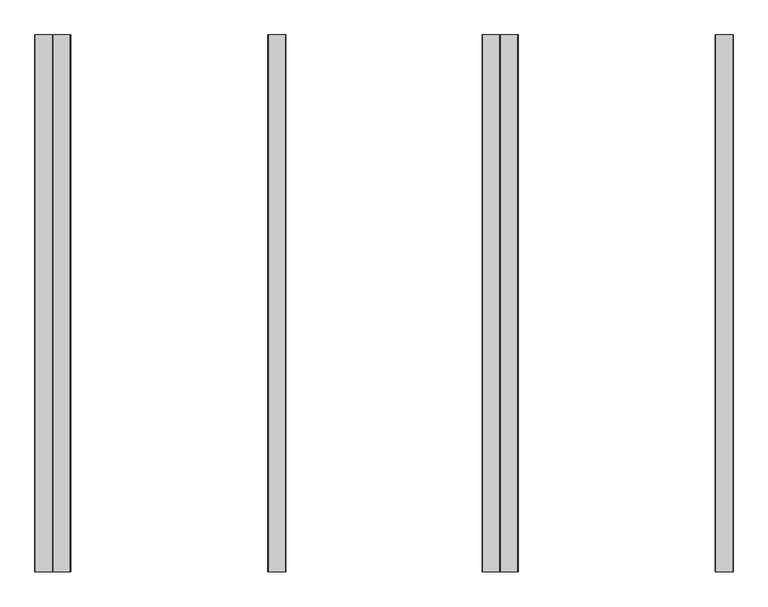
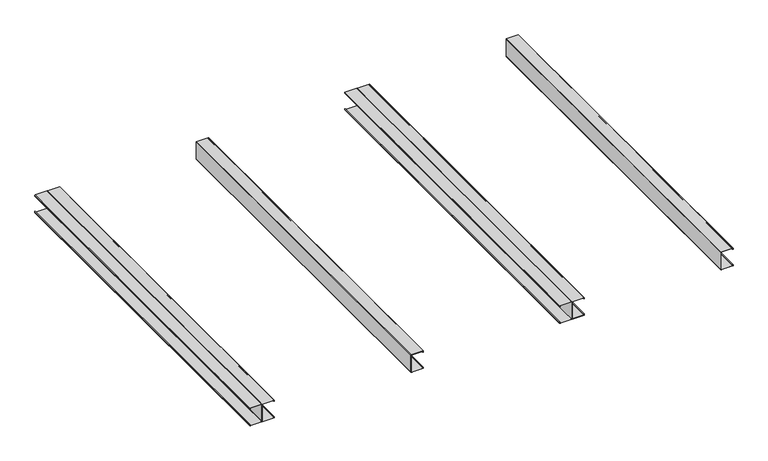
"""IFC4 building model written with IfcOpenShell, lengths in millimetres: proxy geometry, C- 2xCprofile-75 : C- 2xCprofile-75."""

import ifcopenshell
import ifcopenshell.guid

model = None  # the IFC model being written
_history = None  # IfcOwnerHistory: only IFC2X3 demands one
_inside = {}  # id of a spatial element -> (the spatial element, [elements in it])
_under = {}  # id of a project, library or spatial element -> (it, [spatial elements below it])
_declared = {}  # id of a project -> (the project, [libraries it declares])
_typed = {}  # id of a type object -> (the type object, [elements of that type])
_made_of = {}  # id of a material, layer set ... -> (it, [elements and type objects made of it])


def new_model(schema):
    """Start an empty IFC model of exactly this schema.

    Asked for "IFC4X3", IfcOpenShell would pick the latest addendum, in which some entities
    have other attributes; the version numbers below select the first issue.
    IFC2X3 requires an IfcOwnerHistory on every rooted entity: one is made here for all.
    """
    global model, _history
    if schema == "IFC4X3":
        model = ifcopenshell.file(schema_version=(4, 3, 0, 0))
    else:
        model = ifcopenshell.file(schema=schema)
    _inside.clear()
    _under.clear()
    _declared.clear()
    _typed.clear()
    _made_of.clear()
    _history = None
    if model.schema == "IFC2X3":
        org = make("IfcOrganization", Name="unknown")
        user = make(
            "IfcPersonAndOrganization",
            ThePerson=make("IfcPerson", FamilyName="unknown"),
            TheOrganization=org,
        )
        app = make(
            "IfcApplication",
            ApplicationDeveloper=org,
            Version="unknown",
            ApplicationFullName="unknown",
            ApplicationIdentifier="unknown",
        )
        _history = make(
            "IfcOwnerHistory",
            OwningUser=user,
            OwningApplication=app,
            ChangeAction="ADDED",
            CreationDate=0,
        )
    return model


def make(cls, **values):
    """One entity of the class cls with the attributes given. An attribute that is None is left unset."""
    return model.create_entity(
        cls, **{name: value for name, value in values.items() if value is not None}
    )


def rooted(cls, **values):
    """An entity with a GlobalId (a new one), such as an element, a storey or a relation."""
    return make(cls, GlobalId=ifcopenshell.guid.new(), OwnerHistory=_history, **values)


def si_unit(unit_type, name, prefix=None):
    """IfcSIUnit, for example si_unit("LENGTHUNIT", "METRE", prefix="MILLI")."""
    return make("IfcSIUnit", UnitType=unit_type, Prefix=prefix, Name=name)


def assignment(units):
    """IfcUnitAssignment: the units of a project."""
    return None if units is None else make("IfcUnitAssignment", Units=units)


def point(xyz):
    """IfcCartesianPoint."""
    return None if xyz is None else make("IfcCartesianPoint", Coordinates=xyz)


def direction(xyz):
    """IfcDirection."""
    return None if xyz is None else make("IfcDirection", DirectionRatios=xyz)


def frame(location, z_axis=None, x_axis=None):
    """IfcAxis2Placement3D, a coordinate frame: its origin and axes. An axis left out is left unset."""
    return make(
        "IfcAxis2Placement3D",
        Location=point(location),
        Axis=direction(z_axis),
        RefDirection=direction(x_axis),
    )


def frame_2d(location, x_axis=None):
    """IfcAxis2Placement2D, a coordinate frame in the plane: its origin and x axis."""
    return make(
        "IfcAxis2Placement2D", Location=point(location), RefDirection=direction(x_axis)
    )


def origin():
    """The frame at (0, 0, 0) with its axes left unset."""
    return frame((0.0, 0.0, 0.0))


def place(relative_to, where):
    """IfcLocalPlacement: puts the frame where relative to a parent placement (None: the world)."""
    return make(
        "IfcLocalPlacement", PlacementRelTo=relative_to, RelativePlacement=where
    )


def context(
    kind, dimensions, precision=None, world=None, true_north=None, identifier=None
):
    """IfcGeometricRepresentationContext, for example the 3D "Model" context."""
    return make(
        "IfcGeometricRepresentationContext",
        ContextIdentifier=identifier,
        ContextType=kind,
        CoordinateSpaceDimension=dimensions,
        Precision=precision,
        WorldCoordinateSystem=world,
        TrueNorth=true_north,
    )


def project(units=None, contexts=None):
    """IfcProject with its units and contexts."""
    return rooted(
        "IfcProject",
        Name="project",
        RepresentationContexts=contexts,
        UnitsInContext=assignment(units),
    )


def spatial(cls, under=None, at=None, **own):
    """A site, building, storey or space (cls), placed at a placement, below another one or the project."""
    s = rooted(cls, ObjectPlacement=at, **own)
    if under is not None:
        _under.setdefault(under.id(), (under, []))[1].append(s)
    return s


def polyline(points):
    """IfcPolyline through the points."""
    return make("IfcPolyline", Points=[point(p) for p in points])


def circle_curve(where, radius):
    """IfcCircle in the frame where."""
    return make("IfcCircle", Position=where, Radius=radius)


def trimmed(basis, trim1, trim2, sense, master):
    """IfcTrimmedCurve: the piece of a basis curve between two trims."""
    return make(
        "IfcTrimmedCurve",
        BasisCurve=basis,
        Trim1=trim1,
        Trim2=trim2,
        SenseAgreement=sense,
        MasterRepresentation=master,
    )


def segment(curve, same_sense, transition):
    """IfcCompositeCurveSegment."""
    return make(
        "IfcCompositeCurveSegment",
        Transition=transition,
        SameSense=same_sense,
        ParentCurve=curve,
    )


def composite_curve(segments, self_intersect=None):
    """IfcCompositeCurve: segments joined end to end."""
    return make("IfcCompositeCurve", Segments=segments, SelfIntersect=self_intersect)


def outline(outer, holes=None, kind="AREA"):
    """IfcArbitraryClosedProfileDef: a profile drawn as a closed curve; with holes, ...WithVoids."""
    if holes is None:
        return make("IfcArbitraryClosedProfileDef", ProfileType=kind, OuterCurve=outer)
    return make(
        "IfcArbitraryProfileDefWithVoids",
        ProfileType=kind,
        OuterCurve=outer,
        InnerCurves=holes,
    )


def extrude(swept, where, along, depth):
    """IfcExtrudedAreaSolid: the profile swept, set in the frame where, extruded along a direction by depth."""
    return make(
        "IfcExtrudedAreaSolid",
        SweptArea=swept,
        Position=where,
        ExtrudedDirection=direction(along),
        Depth=depth,
    )


def shape(context_of_items, identifier, shape_type, items):
    """IfcShapeRepresentation: the items that make up one representation, for example the "Body"."""
    return make(
        "IfcShapeRepresentation",
        ContextOfItems=context_of_items,
        RepresentationIdentifier=identifier,
        RepresentationType=shape_type,
        Items=items,
    )


def source(mapping_origin, context_of_items, identifier, shape_type, items):
    """IfcRepresentationMap: a shape defined once, which mapped items show again and again."""
    return make(
        "IfcRepresentationMap",
        MappingOrigin=mapping_origin,
        MappedRepresentation=shape(context_of_items, identifier, shape_type, items),
    )


def transform(
    local_origin,
    x_axis=None,
    y_axis=None,
    z_axis=None,
    scale=None,
    scale2=None,
    scale3=None,
    uniform=True,
):
    """IfcCartesianTransformationOperator3D, or its non-uniform kind. x_axis, y_axis, z_axis: its Axis1, 2, 3."""
    if uniform:
        return make(
            "IfcCartesianTransformationOperator3D",
            Axis1=direction(x_axis),
            Axis2=direction(y_axis),
            LocalOrigin=point(local_origin),
            Scale=scale,
            Axis3=direction(z_axis),
        )
    return make(
        "IfcCartesianTransformationOperator3DnonUniform",
        Axis1=direction(x_axis),
        Axis2=direction(y_axis),
        LocalOrigin=point(local_origin),
        Scale=scale,
        Axis3=direction(z_axis),
        Scale2=scale2,
        Scale3=scale3,
    )


def mapped(mapping_source, mapping_target):
    """IfcMappedItem: shows the shape of a source again, moved by a transform."""
    return make(
        "IfcMappedItem", MappingSource=mapping_source, MappingTarget=mapping_target
    )


def made_of(thing, what):
    """Note that an element or type object is made of a material, layer set ...; save() writes the relation."""
    if what is not None:
        _made_of.setdefault(what.id(), (what, []))[1].append(thing)
    return thing


def element(
    cls,
    number,
    at=None,
    inside=None,
    cuts=None,
    type_object=None,
    material=None,
    context=None,
    identifier="Body",
    shape_type=None,
    held_by="IfcProductDefinitionShape",
    body=None,
    shapes=None,
    **own,
):
    """One element of the class cls, such as IfcWall. Its Tag is "e" and its number.

    at: its placement. inside: the storey or other place that contains it. cuts: it is an
    opening in that element (IfcRelVoidsElement). A single representation is given by context,
    identifier, shape_type and body (its items); several are given by shapes. held_by: the class
    of the entity that holds the representations. save() writes the other relations.
    """
    e = rooted(cls, Tag="e%d" % number, ObjectPlacement=at, **own)
    if body is not None:
        shapes = [shape(context, identifier, shape_type, body)]
    if shapes is not None:
        e.Representation = make(held_by, Representations=shapes)
    if inside is not None:
        _inside.setdefault(inside.id(), (inside, []))[1].append(e)
    if cuts is not None:
        rooted(
            "IfcRelVoidsElement", RelatingBuildingElement=cuts, RelatedOpeningElement=e
        )
    if type_object is not None:
        _typed.setdefault(type_object.id(), (type_object, []))[1].append(e)
    return made_of(e, material)


def aggregate(whole, parts):
    """IfcRelAggregates: a whole, such as a stair, and the parts it consists of."""
    return rooted("IfcRelAggregates", RelatingObject=whole, RelatedObjects=parts)


def save(model, path):
    """Write the relations noted so far, then the file.

    IfcRelAggregates (storeys below a building ...), IfcRelContainedInSpatialStructure (elements
    in a storey), IfcRelDefinesByType, IfcRelAssociatesMaterial and IfcRelDeclares: one each for
    every whole, place, type object, material and project.
    """
    for whole, parts in _under.values():
        aggregate(whole, parts)
    for where, things in _inside.values():
        rooted(
            "IfcRelContainedInSpatialStructure",
            RelatedElements=things,
            RelatingStructure=where,
        )
    for kind, things in _typed.values():
        rooted("IfcRelDefinesByType", RelatedObjects=things, RelatingType=kind)
    for what, things in _made_of.values():
        rooted("IfcRelAssociatesMaterial", RelatedObjects=things, RelatingMaterial=what)
    for by, libraries in _declared.values():
        rooted("IfcRelDeclares", RelatingContext=by, RelatedDefinitions=libraries)
    model.write(path)


def generic_models_d371b926(model_context):
    return source(origin(), model_context, "Body", "SweptSolid", [
        extrude(outline(composite_curve([segment(polyline([(36.7, 1826.3409373), (36.7, 1874.7409373), (33.3621458, 1874.7409373), (33.3621458, 1873.9142072), (35.0, 1873.9142072), (35.0, 1873.1142072), (33.5995706, 1873.1142072)]), True, "CONTINUOUS"), segment(trimmed(circle_curve(frame_2d((33.5995706, 1874.3275723)), 1.213365), [point((33.5995706, 1873.1142072))], [point((33.5995706, 1875.5409373))], False, "CARTESIAN"), True, "CONTINUOUS"), segment(polyline([(33.5995706, 1875.5409373), (36.8270817, 1875.5409373)]), True, "CONTINUOUS"), segment(trimmed(circle_curve(frame_2d((36.8270817, 1874.868019)), 0.6729183), [point((36.8270817, 1875.5409373))], [point((37.5, 1874.868019))], False, "CARTESIAN"), True, "CONTINUOUS"), segment(polyline([(37.5, 1874.868019), (37.5, 1826.3409373)]), True, "CONTINUOUS"), segment(trimmed(circle_curve(frame_2d((36.7, 1826.3409373)), 0.8), [point((37.5, 1826.3409373))], [point((36.7, 1825.5409373))], False, "CARTESIAN"), True, "CONTINUOUS"), segment(polyline([(36.7, 1825.5409373), (-36.7, 1825.5409373)]), True, "CONTINUOUS"), segment(trimmed(circle_curve(frame_2d((-36.7, 1826.3409373)), 0.8), [point((-36.7, 1825.5409373))], [point((-37.5, 1826.3409373))], False, "CARTESIAN"), True, "CONTINUOUS"), segment(polyline([(-37.5, 1826.3409373), (-37.5, 1874.868019)]), True, "CONTINUOUS"), segment(trimmed(circle_curve(frame_2d((-36.8270817, 1874.868019)), 0.6729183), [point((-37.5, 1874.868019))], [point((-36.8270817, 1875.5409373))], False, "CARTESIAN"), True, "CONTINUOUS"), segment(polyline([(-36.8270817, 1875.5409373), (-33.5995706, 1875.5409373)]), True, "CONTINUOUS"), segment(trimmed(circle_curve(frame_2d((-33.5995706, 1874.3275723)), 1.213365), [point((-33.5995706, 1875.5409373))], [point((-33.5995706, 1873.1142072))], False, "CARTESIAN"), True, "CONTINUOUS"), segment(polyline([(-33.5995706, 1873.1142072), (-35.0, 1873.1142072), (-35.0, 1873.9142072), (-33.3621458, 1873.9142072), (-33.3621458, 1874.7409373), (-36.7, 1874.7409373), (-36.7, 1826.3409373), (36.7, 1826.3409373)]), True, "CONTINUOUS")], self_intersect=False)), frame((0.0, 0.0, 0.0), z_axis=(0.0, 1.0, 0.0), x_axis=(0.0, 0.0, 1.0)), (0.0, 0.0, 1.0), 1500.0),
        extrude(outline(composite_curve([segment(polyline([(36.7, 576.3409373), (36.7, 624.7409373), (33.3621458, 624.7409373), (33.3621458, 623.9142072), (35.0, 623.9142072), (35.0, 623.1142072), (33.5995706, 623.1142072)]), True, "CONTINUOUS"), segment(trimmed(circle_curve(frame_2d((33.5995706, 624.3275723)), 1.213365), [point((33.5995706, 623.1142072))], [point((33.5995706, 625.5409373))], False, "CARTESIAN"), True, "CONTINUOUS"), segment(polyline([(33.5995706, 625.5409373), (36.8270817, 625.5409373)]), True, "CONTINUOUS"), segment(trimmed(circle_curve(frame_2d((36.8270817, 624.868019)), 0.6729183), [point((36.8270817, 625.5409373))], [point((37.5, 624.868019))], False, "CARTESIAN"), True, "CONTINUOUS"), segment(polyline([(37.5, 624.868019), (37.5, 576.3409373)]), True, "CONTINUOUS"), segment(trimmed(circle_curve(frame_2d((36.7, 576.3409373)), 0.8), [point((37.5, 576.3409373))], [point((36.7, 575.5409373))], False, "CARTESIAN"), True, "CONTINUOUS"), segment(polyline([(36.7, 575.5409373), (-36.7, 575.5409373)]), True, "CONTINUOUS"), segment(trimmed(circle_curve(frame_2d((-36.7, 576.3409373)), 0.8), [point((-36.7, 575.5409373))], [point((-37.5, 576.3409373))], False, "CARTESIAN"), True, "CONTINUOUS"), segment(polyline([(-37.5, 576.3409373), (-37.5, 624.868019)]), True, "CONTINUOUS"), segment(trimmed(circle_curve(frame_2d((-36.8270817, 624.868019)), 0.6729183), [point((-37.5, 624.868019))], [point((-36.8270817, 625.5409373))], False, "CARTESIAN"), True, "CONTINUOUS"), segment(polyline([(-36.8270817, 625.5409373), (-33.5995706, 625.5409373)]), True, "CONTINUOUS"), segment(trimmed(circle_curve(frame_2d((-33.5995706, 624.3275723)), 1.213365), [point((-33.5995706, 625.5409373))], [point((-33.5995706, 623.1142072))], False, "CARTESIAN"), True, "CONTINUOUS"), segment(polyline([(-33.5995706, 623.1142072), (-35.0, 623.1142072), (-35.0, 623.9142072), (-33.3621458, 623.9142072), (-33.3621458, 624.7409373), (-36.7, 624.7409373), (-36.7, 576.3409373), (36.7, 576.3409373)]), True, "CONTINUOUS")], self_intersect=False)), frame((0.0, 0.0, 0.0), z_axis=(0.0, 1.0, 0.0), x_axis=(0.0, 0.0, 1.0)), (0.0, 0.0, 1.0), 1500.0),
        extrude(outline(composite_curve([segment(polyline([(36.7, 1224.2), (-36.7, 1224.2), (-36.7, 1175.8), (-33.3621458, 1175.8), (-33.3621458, 1176.62673), (-35.0, 1176.62673), (-35.0, 1177.42673), (-33.5995706, 1177.42673)]), True, "CONTINUOUS"), segment(trimmed(circle_curve(frame_2d((-33.5995706, 1176.213365)), 1.213365), [point((-33.5995706, 1177.42673))], [point((-33.5995706, 1175.0))], False, "CARTESIAN"), True, "CONTINUOUS"), segment(polyline([(-33.5995706, 1175.0), (-36.8270817, 1175.0)]), True, "CONTINUOUS"), segment(trimmed(circle_curve(frame_2d((-36.8270817, 1175.6729183)), 0.6729183), [point((-36.8270817, 1175.0))], [point((-37.5, 1175.6729183))], False, "CARTESIAN"), True, "CONTINUOUS"), segment(polyline([(-37.5, 1175.6729183), (-37.5, 1224.2)]), True, "CONTINUOUS"), segment(trimmed(circle_curve(frame_2d((-36.7, 1224.2)), 0.8), [point((-37.5, 1224.2))], [point((-36.7, 1225.0))], False, "CARTESIAN"), True, "CONTINUOUS"), segment(trimmed(circle_curve(frame_2d((-36.7, 1225.8)), 0.8), [point((-36.7, 1225.0))], [point((-37.5, 1225.8))], False, "CARTESIAN"), True, "CONTINUOUS"), segment(polyline([(-37.5, 1225.8), (-37.5, 1274.3270817)]), True, "CONTINUOUS"), segment(trimmed(circle_curve(frame_2d((-36.8270817, 1274.3270817)), 0.6729183), [point((-37.5, 1274.3270817))], [point((-36.8270817, 1275.0))], False, "CARTESIAN"), True, "CONTINUOUS"), segment(polyline([(-36.8270817, 1275.0), (-33.5995706, 1275.0)]), True, "CONTINUOUS"), segment(trimmed(circle_curve(frame_2d((-33.5995706, 1273.786635)), 1.213365), [point((-33.5995706, 1275.0))], [point((-33.5995706, 1272.57327))], False, "CARTESIAN"), True, "CONTINUOUS"), segment(polyline([(-33.5995706, 1272.57327), (-35.0, 1272.57327), (-35.0, 1273.37327), (-33.3621458, 1273.37327), (-33.3621458, 1274.2), (-36.7, 1274.2), (-36.7, 1225.8), (36.7, 1225.8), (36.7, 1274.2), (33.3621458, 1274.2), (33.3621458, 1273.37327), (35.0, 1273.37327), (35.0, 1272.57327), (33.5995706, 1272.57327)]), True, "CONTINUOUS"), segment(trimmed(circle_curve(frame_2d((33.5995706, 1273.786635)), 1.213365), [point((33.5995706, 1272.57327))], [point((33.5995706, 1275.0))], False, "CARTESIAN"), True, "CONTINUOUS"), segment(polyline([(33.5995706, 1275.0), (36.8270817, 1275.0)]), True, "CONTINUOUS"), segment(trimmed(circle_curve(frame_2d((36.8270817, 1274.3270817)), 0.6729183), [point((36.8270817, 1275.0))], [point((37.5, 1274.3270817))], False, "CARTESIAN"), True, "CONTINUOUS"), segment(polyline([(37.5, 1274.3270817), (37.5, 1225.8)]), True, "CONTINUOUS"), segment(trimmed(circle_curve(frame_2d((36.7, 1225.8)), 0.8), [point((37.5, 1225.8))], [point((36.7, 1225.0))], False, "CARTESIAN"), True, "CONTINUOUS"), segment(trimmed(circle_curve(frame_2d((36.7, 1224.2)), 0.8), [point((36.7, 1225.0))], [point((37.5, 1224.2))], False, "CARTESIAN"), True, "CONTINUOUS"), segment(polyline([(37.5, 1224.2), (37.5, 1175.6729183)]), True, "CONTINUOUS"), segment(trimmed(circle_curve(frame_2d((36.8270817, 1175.6729183)), 0.6729183), [point((37.5, 1175.6729183))], [point((36.8270817, 1175.0))], False, "CARTESIAN"), True, "CONTINUOUS"), segment(polyline([(36.8270817, 1175.0), (33.5995706, 1175.0)]), True, "CONTINUOUS"), segment(trimmed(circle_curve(frame_2d((33.5995706, 1176.213365)), 1.213365), [point((33.5995706, 1175.0))], [point((33.5995706, 1177.42673))], False, "CARTESIAN"), True, "CONTINUOUS"), segment(polyline([(33.5995706, 1177.42673), (35.0, 1177.42673), (35.0, 1176.62673), (33.3621458, 1176.62673), (33.3621458, 1175.8), (36.7, 1175.8), (36.7, 1224.2)]), True, "CONTINUOUS")], self_intersect=False)), frame((0.0, 0.0, 0.0), z_axis=(0.0, 1.0, 0.0), x_axis=(0.0, 0.0, 1.0)), (0.0, 0.0, 1.0), 1500.0),
        extrude(outline(composite_curve([segment(polyline([(36.7, -25.8), (-36.7, -25.8), (-36.7, -74.2), (-33.3621458, -74.2), (-33.3621458, -73.37327), (-35.0, -73.37327), (-35.0, -72.57327), (-33.5995706, -72.57327)]), True, "CONTINUOUS"), segment(trimmed(circle_curve(frame_2d((-33.5995706, -73.786635)), 1.213365), [point((-33.5995706, -72.57327))], [point((-33.5995706, -75.0))], False, "CARTESIAN"), True, "CONTINUOUS"), segment(polyline([(-33.5995706, -75.0), (-36.8270817, -75.0)]), True, "CONTINUOUS"), segment(trimmed(circle_curve(frame_2d((-36.8270817, -74.3270817)), 0.6729183), [point((-36.8270817, -75.0))], [point((-37.5, -74.3270817))], False, "CARTESIAN"), True, "CONTINUOUS"), segment(polyline([(-37.5, -74.3270817), (-37.5, -25.8)]), True, "CONTINUOUS"), segment(trimmed(circle_curve(frame_2d((-36.7, -25.8)), 0.8), [point((-37.5, -25.8))], [point((-36.7, -25.0))], False, "CARTESIAN"), True, "CONTINUOUS"), segment(trimmed(circle_curve(frame_2d((-36.7, -24.2)), 0.8), [point((-36.7, -25.0))], [point((-37.5, -24.2))], False, "CARTESIAN"), True, "CONTINUOUS"), segment(polyline([(-37.5, -24.2), (-37.5, 24.3270817)]), True, "CONTINUOUS"), segment(trimmed(circle_curve(frame_2d((-36.8270817, 24.3270817)), 0.6729183), [point((-37.5, 24.3270817))], [point((-36.8270817, 25.0))], False, "CARTESIAN"), True, "CONTINUOUS"), segment(polyline([(-36.8270817, 25.0), (-33.5995706, 25.0)]), True, "CONTINUOUS"), segment(trimmed(circle_curve(frame_2d((-33.5995706, 23.786635)), 1.213365), [point((-33.5995706, 25.0))], [point((-33.5995706, 22.57327))], False, "CARTESIAN"), True, "CONTINUOUS"), segment(polyline([(-33.5995706, 22.57327), (-35.0, 22.57327), (-35.0, 23.37327), (-33.3621458, 23.37327), (-33.3621458, 24.2), (-36.7, 24.2), (-36.7, -24.2), (36.7, -24.2), (36.7, 24.2), (33.3621458, 24.2), (33.3621458, 23.37327), (35.0, 23.37327), (35.0, 22.57327), (33.5995706, 22.57327)]), True, "CONTINUOUS"), segment(trimmed(circle_curve(frame_2d((33.5995706, 23.786635)), 1.213365), [point((33.5995706, 22.57327))], [point((33.5995706, 25.0))], False, "CARTESIAN"), True, "CONTINUOUS"), segment(polyline([(33.5995706, 25.0), (36.8270817, 25.0)]), True, "CONTINUOUS"), segment(trimmed(circle_curve(frame_2d((36.8270817, 24.3270817)), 0.6729183), [point((36.8270817, 25.0))], [point((37.5, 24.3270817))], False, "CARTESIAN"), True, "CONTINUOUS"), segment(polyline([(37.5, 24.3270817), (37.5, -24.2)]), True, "CONTINUOUS"), segment(trimmed(circle_curve(frame_2d((36.7, -24.2)), 0.8), [point((37.5, -24.2))], [point((36.7, -25.0))], False, "CARTESIAN"), True, "CONTINUOUS"), segment(trimmed(circle_curve(frame_2d((36.7, -25.8)), 0.8), [point((36.7, -25.0))], [point((37.5, -25.8))], False, "CARTESIAN"), True, "CONTINUOUS"), segment(polyline([(37.5, -25.8), (37.5, -74.3270817)]), True, "CONTINUOUS"), segment(trimmed(circle_curve(frame_2d((36.8270817, -74.3270817)), 0.6729183), [point((37.5, -74.3270817))], [point((36.8270817, -75.0))], False, "CARTESIAN"), True, "CONTINUOUS"), segment(polyline([(36.8270817, -75.0), (33.5995706, -75.0)]), True, "CONTINUOUS"), segment(trimmed(circle_curve(frame_2d((33.5995706, -73.786635)), 1.213365), [point((33.5995706, -75.0))], [point((33.5995706, -72.57327))], False, "CARTESIAN"), True, "CONTINUOUS"), segment(polyline([(33.5995706, -72.57327), (35.0, -72.57327), (35.0, -73.37327), (33.3621458, -73.37327), (33.3621458, -74.2), (36.7, -74.2), (36.7, -25.8)]), True, "CONTINUOUS")], self_intersect=False)), frame((0.0, 0.0, 0.0), z_axis=(0.0, 1.0, 0.0), x_axis=(0.0, 0.0, 1.0)), (0.0, 0.0, 1.0), 1500.0),
    ])


if __name__ == "__main__":
    model = new_model("IFC4")
    model_context = context("Model", 3, world=origin())
    ifc_project = project(units=[si_unit("LENGTHUNIT", "METRE", prefix="MILLI")], contexts=[model_context])
    site = spatial("IfcSite", under=ifc_project)
    building = spatial("IfcBuilding", under=site)
    placement = place(None, origin())
    generic_models_shape = generic_models_d371b926(model_context)
    element("IfcBuildingElementProxy", 1, Name="C- 2xCprofile-75 : C- 2xCprofile-75", ObjectType="C- 2xCprofile-75 : C- 2xCprofile-75", at=placement, inside=building, context=model_context, shape_type="MappedRepresentation", body=[
        mapped(generic_models_shape, transform((0.0, 0.0, 0.0), x_axis=(1.0, 0.0, 0.0), y_axis=(0.0, 1.0, 0.0), z_axis=(0.0, 0.0, 1.0))),
    ])
    save(model, "model.ifc")
